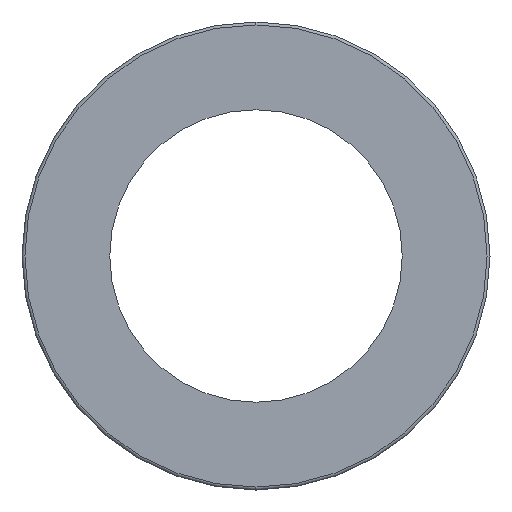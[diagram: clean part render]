
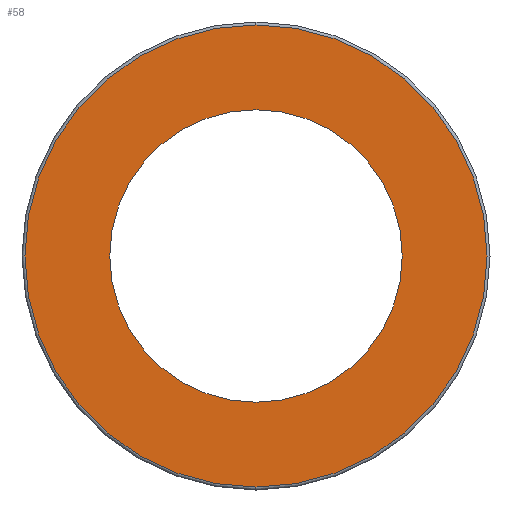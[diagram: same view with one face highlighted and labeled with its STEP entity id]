
A CAD part, left-side view. The second image highlights one B-rep face of the part: STEP entity #58.
In plain terms, the highlighted planar face has unit normal (-1, 0, 0).
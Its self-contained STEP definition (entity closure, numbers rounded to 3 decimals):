
#9 = FACE_BOUND ( 'NONE', #613, .T. ) ;
#29 = DIRECTION ( 'NONE',  ( -1., 0., 0. ) ) ;
#41 = ORIENTED_EDGE ( 'NONE', *, *, #287, .F. ) ;
#43 = VERTEX_POINT ( 'NONE', #158 ) ;
#58 = ADVANCED_FACE ( 'NONE', ( #9, #393 ), #584, .F. ) ;
#68 = CIRCLE ( 'NONE', #473, 19.75 ) ;
#72 = CARTESIAN_POINT ( 'NONE',  ( -29.5, 0., 0. ) ) ;
#113 = DIRECTION ( 'NONE',  ( -1., 0., 0. ) ) ;
#119 = CIRCLE ( 'NONE', #153, 12.5 ) ;
#128 = EDGE_CURVE ( 'NONE', #374, #43, #446, .T. ) ;
#146 = EDGE_LOOP ( 'NONE', ( #461, #406 ) ) ;
#153 = AXIS2_PLACEMENT_3D ( 'NONE', #163, #29, #509 ) ;
#158 = CARTESIAN_POINT ( 'NONE',  ( -29.5, 0., -12.5 ) ) ;
#163 = CARTESIAN_POINT ( 'NONE',  ( -29.5, 0., 0. ) ) ;
#169 = DIRECTION ( 'NONE',  ( 0., 0., 1. ) ) ;
#175 = ORIENTED_EDGE ( 'NONE', *, *, #128, .F. ) ;
#181 = DIRECTION ( 'NONE',  ( -1., 0., 0. ) ) ;
#235 = CARTESIAN_POINT ( 'NONE',  ( -29.5, 0., 12.5 ) ) ;
#243 = DIRECTION ( 'NONE',  ( 1., 0., 0. ) ) ;
#254 = CARTESIAN_POINT ( 'NONE',  ( -29.5, 0., 0. ) ) ;
#275 = CARTESIAN_POINT ( 'NONE',  ( -29.5, 0., 0. ) ) ;
#287 = EDGE_CURVE ( 'NONE', #43, #374, #119, .T. ) ;
#303 = DIRECTION ( 'NONE',  ( 0., 0., -1. ) ) ;
#347 = EDGE_CURVE ( 'NONE', #382, #579, #68, .T. ) ;
#374 = VERTEX_POINT ( 'NONE', #235 ) ;
#382 = VERTEX_POINT ( 'NONE', #623 ) ;
#393 = FACE_OUTER_BOUND ( 'NONE', #146, .T. ) ;
#406 = ORIENTED_EDGE ( 'NONE', *, *, #347, .T. ) ;
#421 = AXIS2_PLACEMENT_3D ( 'NONE', #254, #519, #169 ) ;
#446 = CIRCLE ( 'NONE', #421, 12.5 ) ;
#450 = EDGE_CURVE ( 'NONE', #579, #382, #533, .T. ) ;
#461 = ORIENTED_EDGE ( 'NONE', *, *, #450, .T. ) ;
#471 = DIRECTION ( 'NONE',  ( 0., 0., -1. ) ) ;
#473 = AXIS2_PLACEMENT_3D ( 'NONE', #275, #181, #471 ) ;
#509 = DIRECTION ( 'NONE',  ( 0., 0., 1. ) ) ;
#519 = DIRECTION ( 'NONE',  ( -1., 0., 0. ) ) ;
#533 = CIRCLE ( 'NONE', #561, 19.75 ) ;
#534 = CARTESIAN_POINT ( 'NONE',  ( -29.5, 12.5, 0. ) ) ;
#561 = AXIS2_PLACEMENT_3D ( 'NONE', #72, #113, #303 ) ;
#576 = AXIS2_PLACEMENT_3D ( 'NONE', #534, #243, #589 ) ;
#579 = VERTEX_POINT ( 'NONE', #601 ) ;
#584 = PLANE ( 'NONE',  #576 ) ;
#589 = DIRECTION ( 'NONE',  ( 0., 1., 0. ) ) ;
#601 = CARTESIAN_POINT ( 'NONE',  ( -29.5, 0., -19.75 ) ) ;
#613 = EDGE_LOOP ( 'NONE', ( #175, #41 ) ) ;
#623 = CARTESIAN_POINT ( 'NONE',  ( -29.5, 0., 19.75 ) ) ;
